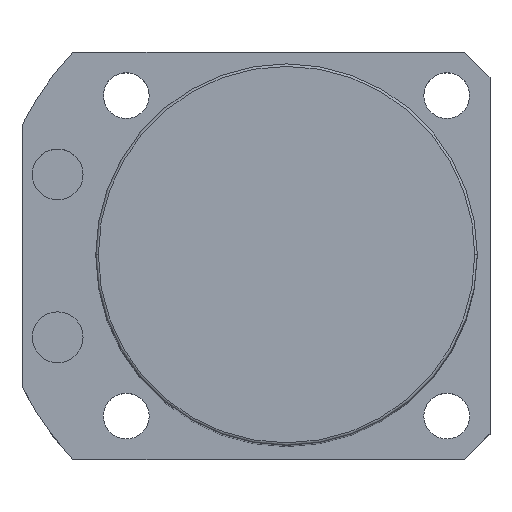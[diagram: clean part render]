
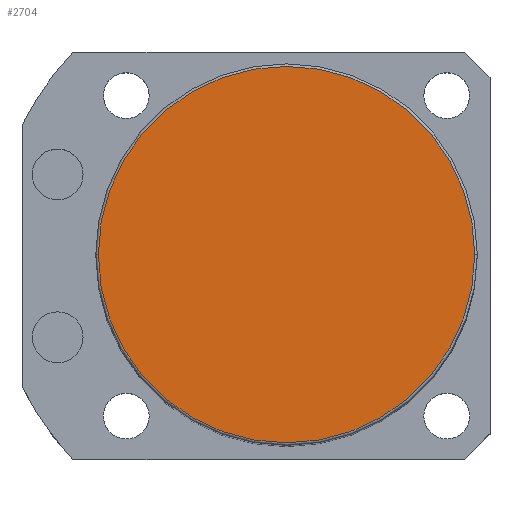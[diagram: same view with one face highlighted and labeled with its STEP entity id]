
A CAD part, top view. The second image highlights one B-rep face of the part: STEP entity #2704.
In plain terms, the highlighted planar face has unit normal (0, 0, 1).
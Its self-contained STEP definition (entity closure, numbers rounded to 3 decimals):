
#1 = CIRCLE ( 'NONE', #1110, 37. ) ;
#20 = DIRECTION ( 'NONE',  ( 0., 0., 1. ) ) ;
#140 = ORIENTED_EDGE ( 'NONE', *, *, #1467, .T. ) ;
#227 = DIRECTION ( 'NONE',  ( 1., 0., 0. ) ) ;
#249 = AXIS2_PLACEMENT_3D ( 'NONE', #284, #2225, #1808 ) ;
#284 = CARTESIAN_POINT ( 'NONE',  ( 0., 0., 160.5 ) ) ;
#779 = ORIENTED_EDGE ( 'NONE', *, *, #1745, .T. ) ;
#857 = CARTESIAN_POINT ( 'NONE',  ( 0., 0., 160.5 ) ) ;
#1110 = AXIS2_PLACEMENT_3D ( 'NONE', #857, #20, #227 ) ;
#1467 = EDGE_CURVE ( 'NONE', #1713, #2052, #2554, .T. ) ;
#1469 = FACE_OUTER_BOUND ( 'NONE', #2133, .T. ) ;
#1576 = PLANE ( 'NONE',  #249 ) ;
#1643 = CARTESIAN_POINT ( 'NONE',  ( 0., 0., 160.5 ) ) ;
#1669 = DIRECTION ( 'NONE',  ( 0., 0., 1. ) ) ;
#1713 = VERTEX_POINT ( 'NONE', #2398 ) ;
#1745 = EDGE_CURVE ( 'NONE', #2052, #1713, #1, .T. ) ;
#1808 = DIRECTION ( 'NONE',  ( 1., 0., 0. ) ) ;
#2052 = VERTEX_POINT ( 'NONE', #2292 ) ;
#2133 = EDGE_LOOP ( 'NONE', ( #779, #140 ) ) ;
#2225 = DIRECTION ( 'NONE',  ( 0., 0., 1. ) ) ;
#2292 = CARTESIAN_POINT ( 'NONE',  ( 37., 0., 160.5 ) ) ;
#2398 = CARTESIAN_POINT ( 'NONE',  ( -37., 0., 160.5 ) ) ;
#2554 = CIRCLE ( 'NONE', #2856, 37. ) ;
#2704 = ADVANCED_FACE ( 'NONE', ( #1469 ), #1576, .T. ) ;
#2767 = DIRECTION ( 'NONE',  ( 1., 0., 0. ) ) ;
#2856 = AXIS2_PLACEMENT_3D ( 'NONE', #1643, #1669, #2767 ) ;
